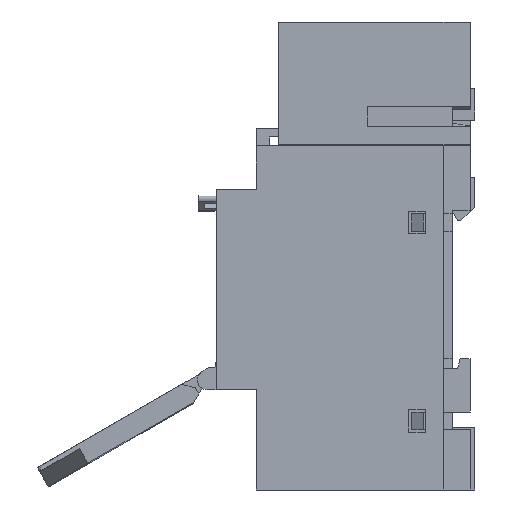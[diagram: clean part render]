
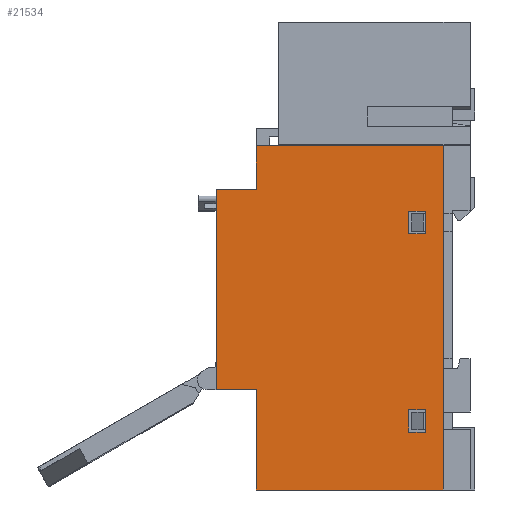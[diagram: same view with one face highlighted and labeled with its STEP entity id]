
A CAD part, left-side view. The second image highlights one B-rep face of the part: STEP entity #21534.
In plain terms, the highlighted planar face has unit normal (-1, 0, 0).
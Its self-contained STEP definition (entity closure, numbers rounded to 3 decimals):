
#907=PLANE('',#23183);
#3548=LINE('',#35968,#6553);
#3700=LINE('',#36290,#6705);
#3749=LINE('',#36392,#6754);
#3830=LINE('',#36548,#6835);
#3843=LINE('',#36573,#6848);
#3867=LINE('',#36619,#6872);
#3868=LINE('',#36621,#6873);
#3869=LINE('',#36624,#6874);
#3870=LINE('',#36626,#6875);
#3871=LINE('',#36628,#6876);
#3872=LINE('',#36629,#6877);
#3873=LINE('',#36630,#6878);
#3874=LINE('',#36633,#6879);
#3875=LINE('',#36635,#6880);
#3876=LINE('',#36637,#6881);
#3877=LINE('',#36638,#6882);
#3878=LINE('',#36640,#6883);
#3879=LINE('',#36642,#6884);
#6553=VECTOR('',#27711,1000.);
#6705=VECTOR('',#27977,1000.);
#6754=VECTOR('',#28042,1000.);
#6835=VECTOR('',#28159,1000.);
#6848=VECTOR('',#28174,1000.);
#6872=VECTOR('',#28208,1000.);
#6873=VECTOR('',#28211,1000.);
#6874=VECTOR('',#28212,1000.);
#6875=VECTOR('',#28213,1000.);
#6876=VECTOR('',#28214,1000.);
#6877=VECTOR('',#28215,1000.);
#6878=VECTOR('',#28216,1000.);
#6879=VECTOR('',#28217,1000.);
#6880=VECTOR('',#28218,1000.);
#6881=VECTOR('',#28219,1000.);
#6882=VECTOR('',#28220,1000.);
#6883=VECTOR('',#28221,1000.);
#6884=VECTOR('',#28222,1000.);
#12193=ORIENTED_EDGE('',*,*,#15867,.F.);
#12194=ORIENTED_EDGE('',*,*,#15868,.F.);
#12195=ORIENTED_EDGE('',*,*,#15869,.F.);
#12196=ORIENTED_EDGE('',*,*,#15870,.F.);
#12197=ORIENTED_EDGE('',*,*,#15533,.F.);
#12198=ORIENTED_EDGE('',*,*,#15871,.F.);
#12199=ORIENTED_EDGE('',*,*,#15872,.F.);
#12200=ORIENTED_EDGE('',*,*,#15873,.F.);
#12201=ORIENTED_EDGE('',*,*,#15874,.F.);
#12202=ORIENTED_EDGE('',*,*,#15875,.F.);
#12203=ORIENTED_EDGE('',*,*,#15842,.F.);
#12204=ORIENTED_EDGE('',*,*,#15866,.T.);
#12205=ORIENTED_EDGE('',*,*,#15746,.F.);
#12206=ORIENTED_EDGE('',*,*,#15694,.F.);
#12207=ORIENTED_EDGE('',*,*,#15876,.F.);
#12208=ORIENTED_EDGE('',*,*,#15877,.F.);
#12209=ORIENTED_EDGE('',*,*,#15878,.T.);
#12210=ORIENTED_EDGE('',*,*,#15829,.T.);
#15533=EDGE_CURVE('',#18452,#18453,#3548,.T.);
#15694=EDGE_CURVE('',#18567,#18568,#3700,.T.);
#15746=EDGE_CURVE('',#18568,#18613,#3749,.T.);
#15829=EDGE_CURVE('',#18670,#18668,#3830,.T.);
#15842=EDGE_CURVE('',#18680,#18668,#3843,.T.);
#15866=EDGE_CURVE('',#18680,#18613,#3867,.T.);
#15867=EDGE_CURVE('',#18698,#18699,#3868,.T.);
#15868=EDGE_CURVE('',#18700,#18698,#3869,.T.);
#15869=EDGE_CURVE('',#18701,#18700,#3870,.T.);
#15870=EDGE_CURVE('',#18453,#18701,#3871,.T.);
#15871=EDGE_CURVE('',#18699,#18452,#3872,.T.);
#15872=EDGE_CURVE('',#18702,#18703,#3873,.T.);
#15873=EDGE_CURVE('',#18704,#18702,#3874,.T.);
#15874=EDGE_CURVE('',#18705,#18704,#3875,.T.);
#15875=EDGE_CURVE('',#18703,#18705,#3876,.T.);
#15876=EDGE_CURVE('',#18706,#18567,#3877,.T.);
#15877=EDGE_CURVE('',#18707,#18706,#3878,.T.);
#15878=EDGE_CURVE('',#18707,#18670,#3879,.T.);
#18452=VERTEX_POINT('',#35960);
#18453=VERTEX_POINT('',#35965);
#18567=VERTEX_POINT('',#36289);
#18568=VERTEX_POINT('',#36291);
#18613=VERTEX_POINT('',#36393);
#18668=VERTEX_POINT('',#36546);
#18670=VERTEX_POINT('',#36549);
#18680=VERTEX_POINT('',#36572);
#18698=VERTEX_POINT('',#36622);
#18699=VERTEX_POINT('',#36623);
#18700=VERTEX_POINT('',#36625);
#18701=VERTEX_POINT('',#36627);
#18702=VERTEX_POINT('',#36631);
#18703=VERTEX_POINT('',#36632);
#18704=VERTEX_POINT('',#36634);
#18705=VERTEX_POINT('',#36636);
#18706=VERTEX_POINT('',#36639);
#18707=VERTEX_POINT('',#36641);
#19864=EDGE_LOOP('',(#12193,#12194,#12195,#12196,#12197,#12198));
#19865=EDGE_LOOP('',(#12199,#12200,#12201,#12202));
#19866=EDGE_LOOP('',(#12203,#12204,#12205,#12206,#12207,#12208,#12209,#12210));
#20725=FACE_BOUND('',#19864,.T.);
#20726=FACE_BOUND('',#19865,.T.);
#20727=FACE_BOUND('',#19866,.T.);
#21534=ADVANCED_FACE('',(#20725,#20726,#20727),#907,.T.);
#23183=AXIS2_PLACEMENT_3D('',#36620,#28209,#28210);
#27711=DIRECTION('',(0.,0.,1.));
#27977=DIRECTION('',(0.,1.,0.));
#28042=DIRECTION('',(0.,0.,1.));
#28159=DIRECTION('',(0.,1.,0.));
#28174=DIRECTION('',(0.,0.,1.));
#28208=DIRECTION('',(0.,1.,0.));
#28209=DIRECTION('',(-1.,0.,0.));
#28210=DIRECTION('',(0.,0.,1.));
#28211=DIRECTION('',(0.,-1.,0.));
#28212=DIRECTION('',(0.,0.,-1.));
#28213=DIRECTION('',(0.,1.,0.));
#28214=DIRECTION('',(0.,0.,1.));
#28215=DIRECTION('',(0.,0.,1.));
#28216=DIRECTION('',(0.,-1.,0.));
#28217=DIRECTION('',(0.,0.,-1.));
#28218=DIRECTION('',(0.,1.,0.));
#28219=DIRECTION('',(0.,0.,1.));
#28220=DIRECTION('',(0.,0.,1.));
#28221=DIRECTION('',(0.,1.,0.));
#28222=DIRECTION('',(0.,0.,1.));
#35960=CARTESIAN_POINT('',(-17.9,11.,-76.5));
#35965=CARTESIAN_POINT('',(-17.9,11.,-72.5));
#35968=CARTESIAN_POINT('',(-17.9,11.,-76.5));
#36289=CARTESIAN_POINT('',(-17.9,49.,-67.5));
#36290=CARTESIAN_POINT('',(-17.9,49.,-67.5));
#36291=CARTESIAN_POINT('',(-17.9,58.,-67.5));
#36392=CARTESIAN_POINT('',(-17.9,58.,-90.));
#36393=CARTESIAN_POINT('',(-17.9,58.,-22.5));
#36546=CARTESIAN_POINT('',(-17.9,49.,-12.8));
#36548=CARTESIAN_POINT('',(-17.9,7.,-12.8));
#36549=CARTESIAN_POINT('',(-17.9,7.,-12.8));
#36572=CARTESIAN_POINT('',(-17.9,49.,-22.5));
#36573=CARTESIAN_POINT('',(-17.9,49.,-12.8));
#36619=CARTESIAN_POINT('',(-17.9,49.,-22.5));
#36620=CARTESIAN_POINT('',(-17.9,7.,-90.));
#36621=CARTESIAN_POINT('',(-17.9,14.8,-77.));
#36622=CARTESIAN_POINT('',(-17.9,14.8,-77.));
#36623=CARTESIAN_POINT('',(-17.9,11.,-77.));
#36624=CARTESIAN_POINT('',(-17.9,14.8,-77.));
#36625=CARTESIAN_POINT('',(-17.9,14.8,-72.));
#36626=CARTESIAN_POINT('',(-17.9,14.8,-72.));
#36627=CARTESIAN_POINT('',(-17.9,11.,-72.));
#36628=CARTESIAN_POINT('',(-17.9,11.,-77.));
#36629=CARTESIAN_POINT('',(-17.9,11.,-77.));
#36630=CARTESIAN_POINT('',(-17.9,11.,-32.5));
#36631=CARTESIAN_POINT('',(-17.9,14.8,-32.5));
#36632=CARTESIAN_POINT('',(-17.9,11.,-32.5));
#36633=CARTESIAN_POINT('',(-17.9,14.8,-32.5));
#36634=CARTESIAN_POINT('',(-17.9,14.8,-27.5));
#36635=CARTESIAN_POINT('',(-17.9,11.,-27.5));
#36636=CARTESIAN_POINT('',(-17.9,11.,-27.5));
#36637=CARTESIAN_POINT('',(-17.9,11.,-32.5));
#36638=CARTESIAN_POINT('',(-17.9,49.,-90.));
#36639=CARTESIAN_POINT('',(-17.9,49.,-90.));
#36640=CARTESIAN_POINT('',(-17.9,7.,-90.));
#36641=CARTESIAN_POINT('',(-17.9,7.,-90.));
#36642=CARTESIAN_POINT('',(-17.9,7.,-90.));
